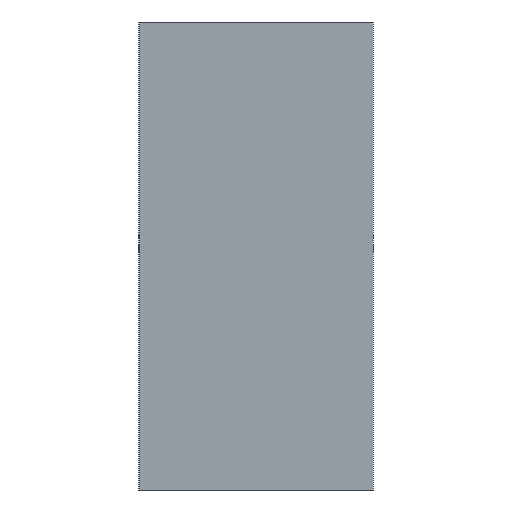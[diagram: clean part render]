
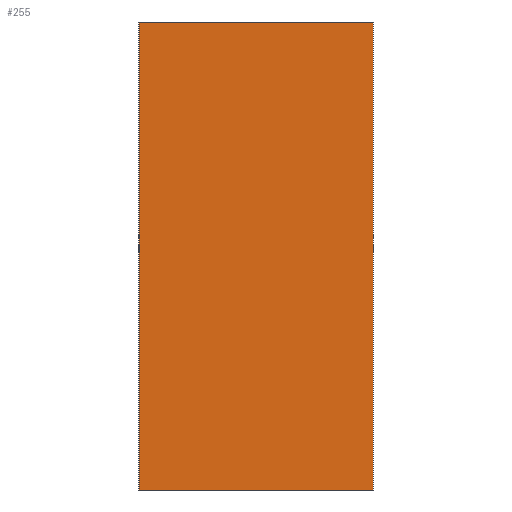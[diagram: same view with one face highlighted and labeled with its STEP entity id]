
A CAD part, left-side view. The second image highlights one B-rep face of the part: STEP entity #255.
In plain terms, the highlighted planar face has unit normal (-1, 0, 0).
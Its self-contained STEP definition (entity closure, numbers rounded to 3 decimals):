
#105 = VERTEX_POINT ( 'NONE', #970 ) ;
#113 = ORIENTED_EDGE ( 'NONE', *, *, #2683, .T. ) ;
#128 = EDGE_CURVE ( 'NONE', #207, #105, #1057, .T. ) ;
#171 = EDGE_CURVE ( 'NONE', #2953, #2733, #1360, .T. ) ;
#207 = VERTEX_POINT ( 'NONE', #1632 ) ;
#255 = ADVANCED_FACE ( 'NONE', ( #1816 ), #1817, .F. ) ;
#468 = ORIENTED_EDGE ( 'NONE', *, *, #128, .T. ) ;
#817 = CARTESIAN_POINT ( 'NONE',  ( -94.746, 226.549, 25. ) ) ;
#970 = CARTESIAN_POINT ( 'NONE',  ( -94.746, 201.549, -25. ) ) ;
#987 = EDGE_LOOP ( 'NONE', ( #468, #2649, #2528, #113 ) ) ;
#1057 = LINE ( 'NONE', #1058, #1059 ) ;
#1058 = CARTESIAN_POINT ( 'NONE',  ( -94.746, 201.549, -25. ) ) ;
#1059 = VECTOR ( 'NONE', #1060, 1000. ) ;
#1060 = DIRECTION ( 'NONE',  ( 0., -1., 0. ) ) ;
#1360 = LINE ( 'NONE', #1361, #1362 ) ;
#1361 = CARTESIAN_POINT ( 'NONE',  ( -94.746, 201.549, 25. ) ) ;
#1362 = VECTOR ( 'NONE', #1363, 1000. ) ;
#1363 = DIRECTION ( 'NONE',  ( 0., -1., 0. ) ) ;
#1632 = CARTESIAN_POINT ( 'NONE',  ( -94.746, 226.549, -25. ) ) ;
#1816 = FACE_OUTER_BOUND ( 'NONE', #987, .T. ) ;
#1817 = PLANE ( 'NONE',  #1818 ) ;
#1818 = AXIS2_PLACEMENT_3D ( 'NONE', #1819, #1820, #1821 ) ;
#1819 = CARTESIAN_POINT ( 'NONE',  ( -94.746, 201.549, 25. ) ) ;
#1820 = DIRECTION ( 'NONE',  ( 1., 0., 0. ) ) ;
#1821 = DIRECTION ( 'NONE',  ( 0., 0., -1. ) ) ;
#1887 = LINE ( 'NONE', #1888, #1889 ) ;
#1888 = CARTESIAN_POINT ( 'NONE',  ( -94.746, 226.549, 25. ) ) ;
#1889 = VECTOR ( 'NONE', #1890, 1000. ) ;
#1890 = DIRECTION ( 'NONE',  ( 0., 0., -1. ) ) ;
#2059 = CARTESIAN_POINT ( 'NONE',  ( -94.746, 201.549, 25. ) ) ;
#2178 = LINE ( 'NONE', #2179, #2180 ) ;
#2179 = CARTESIAN_POINT ( 'NONE',  ( -94.746, 201.549, 25. ) ) ;
#2180 = VECTOR ( 'NONE', #2181, 1000. ) ;
#2181 = DIRECTION ( 'NONE',  ( 0., 0., -1. ) ) ;
#2528 = ORIENTED_EDGE ( 'NONE', *, *, #171, .F. ) ;
#2649 = ORIENTED_EDGE ( 'NONE', *, *, #2763, .F. ) ;
#2683 = EDGE_CURVE ( 'NONE', #2953, #207, #1887, .T. ) ;
#2733 = VERTEX_POINT ( 'NONE', #2059 ) ;
#2763 = EDGE_CURVE ( 'NONE', #2733, #105, #2178, .T. ) ;
#2953 = VERTEX_POINT ( 'NONE', #817 ) ;
